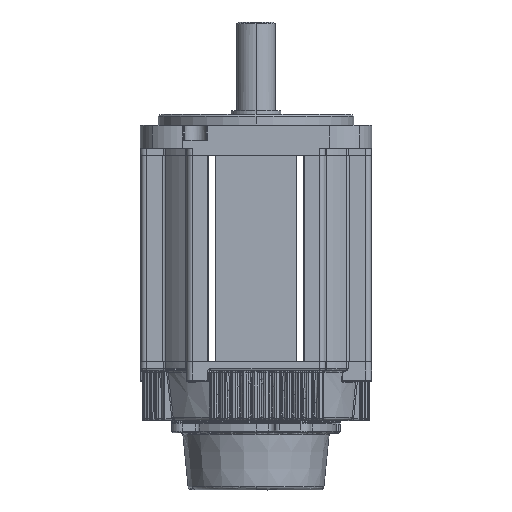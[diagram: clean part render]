
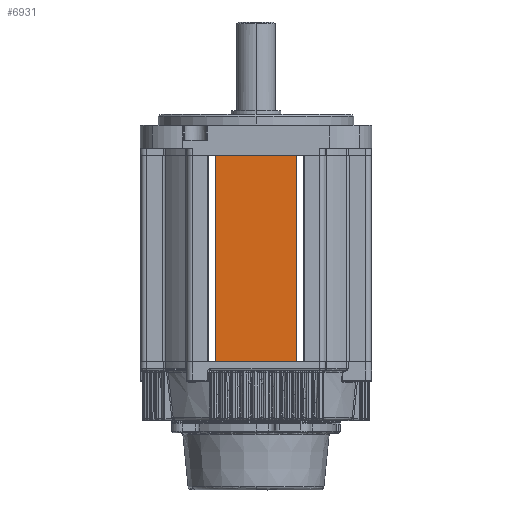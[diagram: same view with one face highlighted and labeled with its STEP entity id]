
A CAD part, top view. The second image highlights one B-rep face of the part: STEP entity #6931.
In plain terms, the highlighted planar face has unit normal (0, 0, 1).
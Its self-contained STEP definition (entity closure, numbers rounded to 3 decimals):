
#3474 = CARTESIAN_POINT ( 'NONE',  ( 12.036, 4., 94.706 ) ) ;
#6931 = ADVANCED_FACE ( 'NONE', ( #7090 ), #54257, .T. ) ;
#7090 = FACE_OUTER_BOUND ( 'NONE', #86241, .T. ) ;
#7177 = EDGE_CURVE ( 'NONE', #52824, #48717, #52495, .T. ) ;
#7568 = LINE ( 'NONE', #77812, #72320 ) ;
#8347 = ORIENTED_EDGE ( 'NONE', *, *, #7177, .T. ) ;
#10616 = VECTOR ( 'NONE', #46238, 1000. ) ;
#13390 = DIRECTION ( 'NONE',  ( 0., 1., 0. ) ) ;
#16549 = AXIS2_PLACEMENT_3D ( 'NONE', #3474, #61521, #54900 ) ;
#34447 = CARTESIAN_POINT ( 'NONE',  ( -32.964, 4., 94.706 ) ) ;
#35034 = CARTESIAN_POINT ( 'NONE',  ( -32.964, 4., 94.706 ) ) ;
#36429 = VERTEX_POINT ( 'NONE', #34447 ) ;
#38389 = LINE ( 'NONE', #35034, #93968 ) ;
#44393 = CARTESIAN_POINT ( 'NONE',  ( 12.036, -112., 94.706 ) ) ;
#46238 = DIRECTION ( 'NONE',  ( -1., 0., 0. ) ) ;
#46746 = CARTESIAN_POINT ( 'NONE',  ( 12.036, -112., 94.706 ) ) ;
#48717 = VERTEX_POINT ( 'NONE', #44393 ) ;
#49255 = LINE ( 'NONE', #60181, #10616 ) ;
#50542 = VERTEX_POINT ( 'NONE', #56434 ) ;
#52495 = LINE ( 'NONE', #46746, #67164 ) ;
#52824 = VERTEX_POINT ( 'NONE', #93750 ) ;
#54257 = PLANE ( 'NONE',  #16549 ) ;
#54900 = DIRECTION ( 'NONE',  ( 1., 0., 0. ) ) ;
#56434 = CARTESIAN_POINT ( 'NONE',  ( 12.036, 4., 94.706 ) ) ;
#60181 = CARTESIAN_POINT ( 'NONE',  ( 12.036, 4., 94.706 ) ) ;
#61521 = DIRECTION ( 'NONE',  ( 0., 0., 1. ) ) ;
#62790 = ORIENTED_EDGE ( 'NONE', *, *, #71338, .T. ) ;
#67164 = VECTOR ( 'NONE', #82231, 1000. ) ;
#71338 = EDGE_CURVE ( 'NONE', #48717, #50542, #7568, .T. ) ;
#72320 = VECTOR ( 'NONE', #13390, 1000. ) ;
#77812 = CARTESIAN_POINT ( 'NONE',  ( 12.036, 4., 94.706 ) ) ;
#79654 = DIRECTION ( 'NONE',  ( 0., -1., 0. ) ) ;
#82231 = DIRECTION ( 'NONE',  ( 1., 0., 0. ) ) ;
#83383 = ORIENTED_EDGE ( 'NONE', *, *, #84646, .T. ) ;
#84646 = EDGE_CURVE ( 'NONE', #36429, #52824, #38389, .T. ) ;
#86241 = EDGE_LOOP ( 'NONE', ( #89160, #83383, #8347, #62790 ) ) ;
#89160 = ORIENTED_EDGE ( 'NONE', *, *, #91731, .T. ) ;
#91731 = EDGE_CURVE ( 'NONE', #50542, #36429, #49255, .T. ) ;
#93750 = CARTESIAN_POINT ( 'NONE',  ( -32.964, -112., 94.706 ) ) ;
#93968 = VECTOR ( 'NONE', #79654, 1000. ) ;
